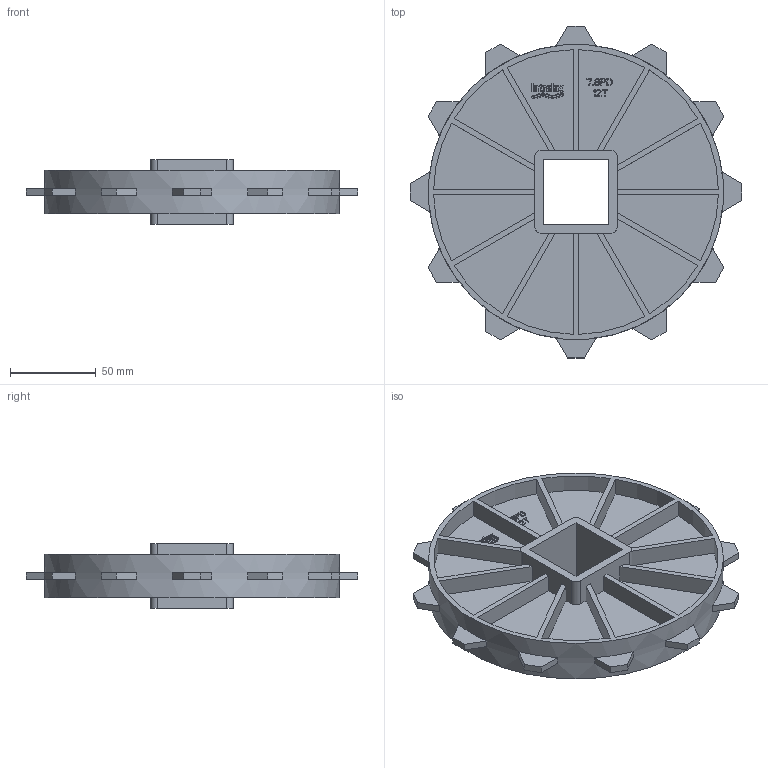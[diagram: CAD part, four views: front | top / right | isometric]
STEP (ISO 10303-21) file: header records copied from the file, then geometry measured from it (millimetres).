
FILE_DESCRIPTION((''),'2;1');
FILE_NAME('S400_SPROCKET_78X15_40_SQ','2008-12-12T',('jmumphre'),(''),'PRO/ENGINEER BY PARAMETRIC TECHNOLOGY CORPORATION, 2008150','PRO/ENGINEER BY PARAMETRIC TECHNOLOGY CORPORATION, 2008150','');
FILE_SCHEMA(('CONFIG_CONTROL_DESIGN'));
Length unit declared in the file: inch
Products named in the file (1): S400_SPROCKET_78X15_40_SQ
Bounding box: 193.75 x 193.75 x 37.85 mm (x, y, z)
Volume: 214219.8 mm3; surface area: 112002.4 mm2
Topology: 1 solids, 1 shells, 600 faces, 1668 edges, 1112 vertices
Faces by surface type: plane 462, cylinder 138
Entity records: 19136 total; most frequent: CARTESIAN_POINT 3380, ORIENTED_EDGE 3336, DIRECTION 3168, EDGE_CURVE 1668, VECTOR 1368, LINE 1368, VERTEX_POINT 1112, AXIS2_PLACEMENT_3D 900
